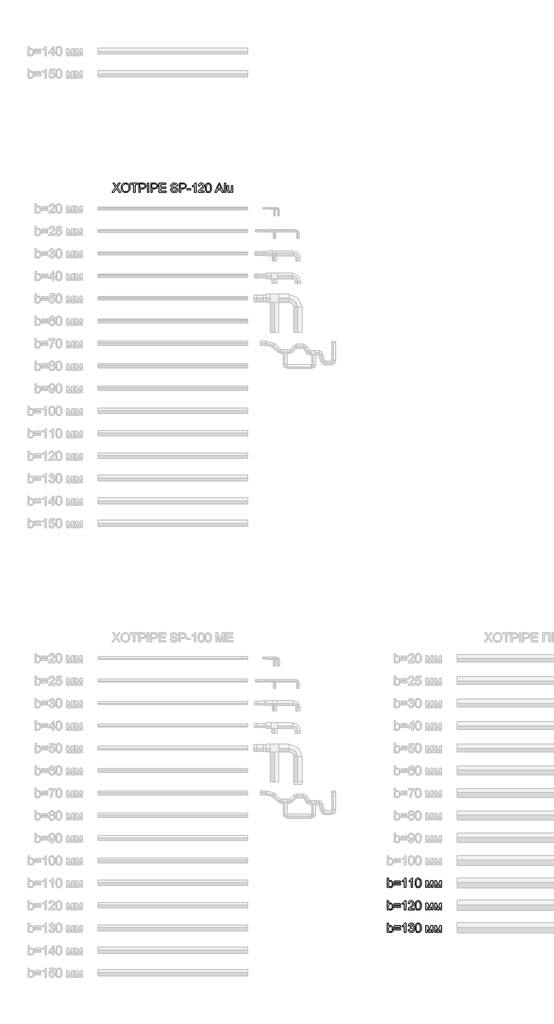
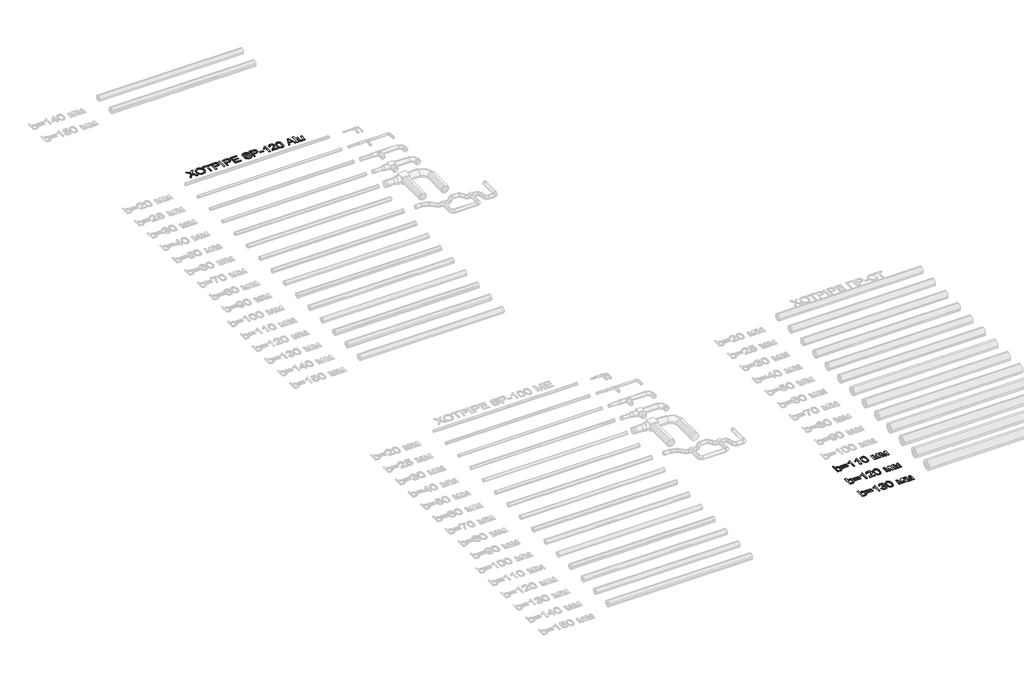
# One storey, part 63 of 86: 4 proxies.
"""IFC4 building model written with IfcOpenShell, lengths in millimetres."""

from ifc_helpers import new_model, si_unit, origin, origin_with_axes, place, context, project, spatial, polyline, outline, extrude, element, save

model = new_model("IFC4")

# Units and contexts
model_context = context("Model", 3, world=origin())
ifc_project = project(units=[si_unit("LENGTHUNIT", "METRE", prefix="MILLI")], contexts=[model_context])

# Site, building, storey
site = spatial("IfcSite", under=ifc_project)
building = spatial("IfcBuilding", under=site)
storey = spatial("IfcBuildingStorey", under=building, Name="Уровень 1", Elevation=0.0)

# Proxies
placement = place(None, origin())
element("IfcBuildingElementProxy", 1, Name="Текст модели 1", ObjectType="Текст модели 1", at=placement, inside=storey, context=model_context, shape_type="SweptSolid", body=[
    extrude(outline(polyline([(52246.1062284, 60543.2937088), (52478.4604965, 60871.7387541), (52283.7773447, 61146.0315697), (52374.1291627, 61146.0315697), (52483.7579973, 60991.6682845), (52509.9144071, 60952.5624284), (52520.6933496, 60931.4827901), (52563.9562722, 60992.6983541), (52672.4078844, 61146.0315697), (52764.0840776, 61146.0315697), (52569.4009257, 60870.8558373), (52801.7551939, 60543.2937088), (52711.4033759, 60543.2937088), (52556.5986323, 60761.6684611), (52524.3721695, 60806.9915229), (52488.9083452, 60757.2538772), (52337.7824216, 60543.2937088), (52246.1062284, 60543.2937088)])), origin_with_axes(), (0.0, 0.0, 1.0), 20.0),
    extrude(outline(polyline([(52848.8440893, 60836.7163882), (52853.8656785, 60907.4141106), (52868.9304462, 60970.000035), (52894.0383924, 61024.4741614), (52910.3585574, 61048.6693004), (52929.189517, 61070.8364899), (52972.2776957, 61107.8546156), (53021.196804, 61134.2961341), (53075.9468419, 61150.1610451), (53136.5278095, 61155.4493488), (53177.0776024, 61152.9661453), (53215.5856503, 61145.5165349), (53252.051953, 61133.1005176), (53286.4765107, 61115.7180933), (53317.8936331, 61093.8934939), (53345.33763, 61068.1509513), (53368.8085013, 61038.4904655), (53388.306247, 61004.9120363), (53403.6285321, 60968.1790191), (53414.5730215, 60929.0547689), (53421.1397151, 60887.5392858), (53423.3286129, 60843.6325697), (53421.0247519, 60799.1464394), (53414.113169, 60757.0699362), (53402.593864, 60717.4030601), (53386.466837, 60680.145811), (53366.1137656, 60646.2822733), (53341.9163274, 60616.7965314), (53313.8745223, 60591.6885853), (53281.9883504, 60570.9584348), (53247.5132089, 60554.7348388), (53211.7044952, 60543.146556), (53174.5622093, 60536.1935863), (53136.0863511, 60533.8759297), (53094.8283853, 60536.4373081), (53055.8144998, 60544.1214433), (53019.0446943, 60556.9283352), (52984.5189691, 60574.857984), (52953.1386349, 60597.2160122), (52925.8050027, 60623.3080427), (52902.5180724, 60653.1340755), (52883.277844, 60686.6941105), (52868.2130763, 60722.64078), (52857.452528, 60759.6267161), (52850.9961989, 60797.6519188), (52848.8440893, 60836.7163882)]), holes=[polyline([(52924.1863219, 60835.9806242), (52927.9525138, 60786.0314463), (52939.2510896, 60741.6924688), (52958.0820492, 60702.9636918), (52984.4453927, 60669.8451151), (53016.492513, 60643.3208233), (53052.3748031, 60624.3749005), (53092.092263, 60613.0073469), (53135.6448927, 60609.2181623), (53179.9424835, 60613.0441351), (53220.1289929, 60624.5220533), (53256.2044211, 60643.6519171), (53288.1687679, 60670.4337263), (53314.3389733, 60704.2512787), (53333.0319772, 60744.488372), (53344.2477795, 60791.145006), (53347.9863803, 60844.2211809), (53346.3860936, 60878.7009209), (53341.5852336, 60910.9181866), (53333.5838002, 60940.872978), (53322.3817935, 60968.5652952), (53308.1033735, 60993.6318547), (53290.8727006, 61015.7093729), (53270.6897746, 61034.7978499), (53247.5545956, 61050.8972857), (53222.1845335, 61063.6765866), (53195.2969582, 61072.8046586), (53166.8918697, 61078.2815018), (53136.9692679, 61080.1071162), (53094.9295529, 61076.5892446), (53055.9248644, 61066.0356298), (53019.9552023, 61048.446272), (52987.0205667, 61023.8211709), (52959.5305846, 60990.9739073), (52939.8948831, 60948.7180616), (52928.1134622, 60897.0536339), (52924.1863219, 60835.9806242)])]), origin_with_axes(), (0.0, 0.0, 1.0), 20.0),
    extrude(outline(polyline([(53677.608648, 60543.2937088), (53677.608648, 61070.6893371), (53479.8352874, 61070.6893371), (53479.8352874, 61146.0315697), (53950.7242412, 61146.0315697), (53950.7242412, 61070.6893371), (53752.9508806, 61070.6893371), (53752.9508806, 60543.2937088), (53677.608648, 60543.2937088)])), origin_with_axes(), (0.0, 0.0, 1.0), 20.0),
    extrude(outline(polyline([(54035.4842529, 60543.2937088), (54035.4842529, 61146.0315697), (54258.8622004, 61146.0315697), (54310.8807145, 61144.5968299), (54348.9197128, 61140.2926106), (54389.0740326, 61129.5688504), (54422.1282298, 61112.1128497), (54448.7444922, 61087.1336623), (54469.5850072, 61053.8403417), (54483.0494882, 61014.5689387), (54487.5376486, 60971.655504), (54484.5072206, 60934.6557723), (54475.4159368, 60900.6174907), (54460.2637972, 60869.5406592), (54439.0508016, 60841.4252777), (54409.9283432, 60818.1199533), (54371.0478148, 60801.473293), (54322.4092165, 60791.4852968), (54264.0125483, 60788.1559648), (54110.8264855, 60788.1559648), (54110.8264855, 60543.2937088), (54035.4842529, 60543.2937088)]), holes=[polyline([(54110.8264855, 60863.4981974), (54268.4271323, 60863.4981974), (54304.6635088, 60865.2272428), (54335.2345026, 60870.4143789), (54360.1401137, 60879.0596058), (54379.380342, 60891.1629234), (54393.7369369, 60906.4024351), (54403.9916475, 60924.456244), (54410.1444738, 60945.3243502), (54412.195416, 60969.0067536), (54407.3577677, 61002.8518972), (54392.844823, 61031.39954), (54370.4592036, 61052.8838485), (54342.0035313, 61065.5389892), (54312.9408537, 61069.4017501), (54266.6612987, 61070.6893371), (54110.8264855, 61070.6893371), (54110.8264855, 60863.4981974)])]), origin_with_axes(), (0.0, 0.0, 1.0), 20.0),
    extrude(outline(polyline([(54600.5509975, 60543.2937088), (54600.5509975, 61146.0315697), (54675.8932301, 61146.0315697), (54675.8932301, 60543.2937088), (54600.5509975, 60543.2937088)])), origin_with_axes(), (0.0, 0.0, 1.0), 20.0),
    extrude(outline(polyline([(54826.5776953, 60543.2937088), (54826.5776953, 61146.0315697), (55049.9556428, 61146.0315697), (55101.9741569, 61144.5968299), (55140.0131552, 61140.2926106), (55180.167475, 61129.5688504), (55213.2216723, 61112.1128497), (55239.8379346, 61087.1336623), (55260.6784496, 61053.8403417), (55274.1429307, 61014.5689387), (55278.631091, 60971.655504), (55275.6006631, 60934.6557723), (55266.5093793, 60900.6174907), (55251.3572396, 60869.5406592), (55230.144244, 60841.4252777), (55201.0217856, 60818.1199533), (55162.1412572, 60801.473293), (55113.502659, 60791.4852968), (55055.1059907, 60788.1559648), (54901.919928, 60788.1559648), (54901.919928, 60543.2937088), (54826.5776953, 60543.2937088)]), holes=[polyline([(54901.919928, 60863.4981974), (55059.5205747, 60863.4981974), (55095.7569512, 60865.2272428), (55126.327945, 60870.4143789), (55151.2335561, 60879.0596058), (55170.4737844, 60891.1629234), (55184.8303793, 60906.4024351), (55195.0850899, 60924.456244), (55201.2379163, 60945.3243502), (55203.2888584, 60969.0067536), (55198.4512102, 61002.8518972), (55183.9382655, 61031.39954), (55161.552646, 61052.8838485), (55133.0969737, 61065.5389892), (55104.0342961, 61069.4017501), (55057.7547411, 61070.6893371), (54901.919928, 61070.6893371), (54901.919928, 60863.4981974)])]), origin_with_axes(), (0.0, 0.0, 1.0), 20.0),
    extrude(outline(polyline([(55382.2266609, 60543.2937088), (55382.2266609, 61146.0315697), (55815.4444984, 61146.0315697), (55815.4444984, 61070.6893371), (55457.5688935, 61070.6893371), (55457.5688935, 60891.7515346), (55796.6089402, 60891.7515346), (55796.6089402, 60816.409302), (55457.5688935, 60816.409302), (55457.5688935, 60618.6359414), (55824.8622775, 60618.6359414), (55824.8622775, 60543.2937088), (55382.2266609, 60543.2937088)])), origin_with_axes(), (0.0, 0.0, 1.0), 20.0),
    extrude(outline(polyline([(56145.0667661, 60750.4848485), (56220.4089987, 60750.4848485), (56229.0542256, 60708.6750597), (56244.6892103, 60675.0690395), (56269.0797866, 60648.3975948), (56303.991788, 60627.3915329), (56346.6660994, 60613.761505), (56394.343606, 60609.2181623), (56436.3189416, 60612.657859), (56473.070353, 60622.976949), (56502.8504005, 60639.3109095), (56523.9116447, 60660.7952181), (56536.4380266, 60685.4617058), (56540.6134873, 60711.3422042), (56537.4864903, 60736.560515), (56528.1054994, 60758.3575232), (56509.0492121, 60776.953958), (56476.8963257, 60792.5705487), (56367.1939147, 60821.3389208), (56295.1810142, 60840.376814), (56249.1037943, 60858.4950023), (56211.5982249, 60883.8420717), (56185.0187507, 60914.5602183), (56169.1814308, 60949.9872545), (56163.9023242, 60989.4609925), (56165.5348006, 61011.8971957), (56170.4322296, 61033.5884379), (56178.5946114, 61054.534719), (56190.0219459, 61074.736039), (56204.5854743, 61093.3692621), (56222.1564381, 61109.6112522), (56242.7348372, 61123.4620093), (56266.3206717, 61134.9215334), (56319.3324672, 61150.3173949), (56378.0096454, 61155.4493488), (56441.5796542, 61150.0782716), (56497.2034118, 61133.9650403), (56521.5388058, 61121.9628902), (56542.8943556, 61107.4407484), (56561.2700613, 61090.398615), (56576.6659228, 61070.8364899), (56588.9623785, 61049.3245902), (56598.0398667, 61026.4331331), (56603.8983875, 61002.1621184), (56606.5379408, 60976.5115463), (56531.1957082, 60976.5115463), (56526.1557249, 61000.5526347), (56517.3633452, 61021.4667261), (56504.8185691, 61039.2538206), (56488.5213968, 61053.9139181), (56468.1683254, 61065.3734423), (56443.4558523, 61073.5588166), (56414.3839777, 61078.4700413), (56380.9527014, 61080.1071162), (56346.4545673, 61078.4884354), (56316.9780224, 61073.632393), (56292.5230668, 61065.5389892), (56273.0897004, 61054.2082237), (56258.2824501, 61040.5873928), (56247.7058427, 61025.6237927), (56241.3598783, 61009.3174232), (56239.2445568, 60991.6682845), (56240.7436759, 60976.4839552), (56245.2410333, 60962.7159715), (56252.736629, 60950.3643335), (56263.2304629, 60939.4290412), (56279.7483645, 60929.073163), (56305.7576215, 60918.6069203), (56386.2502021, 60897.343341), (56469.3179566, 60877.1466194), (56519.5706371, 60859.5250719), (56562.5208601, 60832.1914396), (56579.1261336, 60816.1241935), (56592.4848486, 60798.4566607), (56602.7533548, 60779.2808117), (56610.0880021, 60758.688617), (56615.9557199, 60713.2551906), (56614.2680612, 60689.6877503), (56609.2050853, 60666.8100887), (56600.766792, 60644.6222058), (56588.9531814, 60623.1241018), (56573.9711872, 60603.1481094), (56556.0277429, 60585.5265618), (56535.1228485, 60570.259459), (56511.2565041, 60557.346801), (56485.1230868, 60547.0782948), (56457.4169741, 60539.7436475), (56397.2866619, 60533.8759297), (56358.7464244, 60535.4578223), (56323.4711396, 60540.2035), (56291.4608075, 60548.1129629), (56262.7154281, 60559.186211), (56237.0602575, 60573.4416383), (56214.3205516, 60590.897639), (56194.4963106, 60611.554213), (56177.5875344, 60635.4113604), (56163.9667036, 60661.6965289), (56154.0062985, 60689.6371665), (56147.7063194, 60719.233273), (56145.0667661, 60750.4848485)])), origin_with_axes(), (0.0, 0.0, 1.0), 20.0),
    extrude(outline(polyline([(56728.9690688, 60543.2937088), (56728.9690688, 61146.0315697), (56952.3470163, 61146.0315697), (57004.3655304, 61144.5968299), (57042.4045287, 61140.2926106), (57082.5588485, 61129.5688504), (57115.6130457, 61112.1128497), (57142.2293081, 61087.1336623), (57163.0698231, 61053.8403417), (57176.5343041, 61014.5689387), (57181.0224645, 60971.655504), (57177.9920365, 60934.6557723), (57168.9007527, 60900.6174907), (57153.7486131, 60869.5406592), (57132.5356175, 60841.4252777), (57103.4131591, 60818.1199533), (57064.5326307, 60801.473293), (57015.8940324, 60791.4852968), (56957.4973642, 60788.1559648), (56804.3113014, 60788.1559648), (56804.3113014, 60543.2937088), (56728.9690688, 60543.2937088)]), holes=[polyline([(56804.3113014, 60863.4981974), (56961.9119481, 60863.4981974), (56998.1483247, 60865.2272428), (57028.7193185, 60870.4143789), (57053.6249295, 60879.0596058), (57072.8651579, 60891.1629234), (57087.2217528, 60906.4024351), (57097.4764634, 60924.456244), (57103.6292897, 60945.3243502), (57105.6802319, 60969.0067536), (57100.8425836, 61002.8518972), (57086.3296389, 61031.39954), (57063.9440195, 61052.8838485), (57035.4883472, 61065.5389892), (57006.4256696, 61069.4017501), (56960.1461146, 61070.6893371), (56804.3113014, 61070.6893371), (56804.3113014, 60863.4981974)])]), origin_with_axes(), (0.0, 0.0, 1.0), 20.0),
    extrude(outline(polyline([(57237.5291389, 60722.2315113), (57237.5291389, 60797.5737439), (57472.9736158, 60797.5737439), (57472.9736158, 60722.2315113), (57237.5291389, 60722.2315113)])), origin_with_axes(), (0.0, 0.0, 1.0), 20.0),
    extrude(outline(polyline([(57821.4314417, 60543.2937088), (57746.0892091, 60543.2937088), (57746.0892091, 61013.0054402), (57714.6352985, 60987.5664003), (57674.720102, 60962.1641485), (57632.8183427, 60939.9624701), (57595.4047438, 60924.1251502), (57595.4047438, 60995.3471045), (57654.5785628, 61027.5367791), (57705.8429188, 61065.8332947), (57746.254756, 61106.5578316), (57772.8710183, 61146.0315697), (57821.4314417, 61146.0315697), (57821.4314417, 60543.2937088)])), origin_with_axes(), (0.0, 0.0, 1.0), 20.0),
    extrude(outline(polyline([(58386.4981863, 60618.6359414), (58386.4981863, 60543.2937088), (57990.9514651, 60543.2937088), (57992.606934, 60569.8180007), (57999.0448689, 60595.2386465), (58017.6229097, 60635.8344247), (58044.8093891, 60675.2161923), (58084.1359744, 60716.4373698), (58139.1343327, 60762.5513779), (58220.4362536, 60834.7666136), (58269.2174062, 60888.0727147), (58283.4452424, 60909.8513288), (58293.6079825, 60931.3356373), (58299.7056266, 60952.5256402), (58301.7381746, 60973.4213376), (58299.8205897, 60993.0800317), (58294.067835, 61011.1476362), (58284.4799105, 61027.624151), (58271.0568162, 61042.5095763), (58254.5435131, 61054.8382216), (58235.6849623, 61063.6443969), (58214.4811638, 61068.928102), (58190.9321176, 61070.6893371), (58166.1230756, 61068.9694888), (58143.9351927, 61063.8099438), (58124.3684691, 61055.2107021), (58107.4229047, 61043.1717638), (58093.7147019, 61028.0977991), (58083.8600629, 61010.3934781), (58077.8589879, 60990.0588008), (58075.7114767, 60967.0937672), (58000.3692441, 60976.5115463), (58006.8485658, 61015.4058703), (58018.6345852, 61049.3889696), (58035.7273024, 61078.4608442), (58058.1267174, 61102.6214943), (58085.3177953, 61121.6134023), (58116.7855015, 61135.1790508), (58152.5298359, 61143.31844), (58192.5507984, 61146.0315697), (58232.9304459, 61143.0149373), (58268.8679183, 61133.9650403), (58300.3632156, 61118.8818785), (58327.4163378, 61097.7654519), (58349.1443682, 61072.1792592), (58364.6643899, 61043.6867986), (58373.9764029, 61012.2880704), (58377.0804072, 60977.9830743), (58373.732681, 60941.9490329), (58363.6895026, 60906.5403908), (58345.8656199, 60870.5247435), (58319.1757811, 60832.6696862), (58276.6302284, 60787.4753831), (58211.2392038, 60729.4419984), (58124.5662057, 60656.9692453), (58090.5739093, 60618.6359414), (58386.4981863, 60618.6359414)])), origin_with_axes(), (0.0, 0.0, 1.0), 20.0),
    extrude(outline(polyline([(58461.8404189, 60839.8065969), (58467.3770429, 60936.2836501), (58474.2978229, 60977.1967265), (58483.986915, 61013.2261694), (58496.4029323, 61044.6662845), (58511.5044882, 61071.8113772), (58529.2915827, 61094.6614476), (58549.7642157, 61113.2164957), (58572.9913652, 61127.5730906), (58599.042009, 61137.8278012), (58627.9161471, 61143.9806276), (58659.6137795, 61146.0315697), (58706.0404873, 61141.1755274), (58747.6111527, 61126.6074004), (58782.3760013, 61102.8974058), (58808.3852583, 61070.6157607), (58828.0301569, 61030.0383766), (58843.7019299, 60981.4411651), (58853.9658375, 60919.7289604), (58857.3871401, 60839.8065969), (58851.9056984, 60743.8813667), (58845.0538962, 60703.106246), (58835.4613732, 60667.1227884), (58823.1419249, 60635.6688778), (58808.1093468, 60608.4823983), (58790.3636391, 60585.56335), (58769.9048016, 60566.9117329), (58746.650061, 60552.458569), (58720.5166438, 60542.1348805), (58691.5045499, 60535.9406674), (58659.6137795, 60533.8759297), (58618.1166904, 60537.4627792), (58581.3284909, 60548.2233275), (58549.2491809, 60566.1575748), (58521.8787605, 60591.265521), (58495.611986, 60636.6529621), (58476.8500043, 60693.2056218), (58465.5928152, 60760.9235001), (58461.8404189, 60839.8065969)]), holes=[polyline([(58537.1826515, 60839.9537497), (58539.3899435, 60774.456959), (58546.0118194, 60721.440565), (58557.0482792, 60680.9045676), (58572.499323, 60652.848967), (58591.1877284, 60633.7604899), (58611.9362729, 60620.1258635), (58634.7449566, 60611.9450876), (58659.6137795, 60609.2181623), (58684.4826024, 60611.9542847), (58707.2912861, 60620.1626517), (58728.0398306, 60633.8432634), (58746.7282359, 60652.9961198), (58762.1792797, 60681.0977057), (58773.2157396, 60721.624506), (58779.8376155, 60774.5765206), (58782.0449075, 60839.9537497), (58779.9111919, 60903.7168965), (58773.5100452, 60955.79979), (58762.8414673, 60996.2024301), (58747.9054583, 61024.9248169), (58729.5297527, 61044.9467945), (58708.5420848, 61059.248207), (58684.9424549, 61067.8290546), (58658.7308627, 61070.6893371), (58633.9907985, 61068.1693454), (58611.5683909, 61060.6093704), (58591.4636399, 61048.0094121), (58573.6765454, 61030.3694704), (58557.7104668, 60999.0995008), (58546.306125, 60956.9402242), (58539.4635199, 60903.8916405), (58537.1826515, 60839.9537497)])]), origin_with_axes(), (0.0, 0.0, 1.0), 20.0),
    extrude(outline(polyline([(59116.8175231, 60543.2937088), (59357.4123479, 61146.0315697), (59421.5709679, 61146.0315697), (59662.1657927, 60543.2937088), (59582.556129, 60543.2937088), (59513.5414667, 60731.6492903), (59265.2946963, 60731.6492903), (59196.4271868, 60543.2937088), (59116.8175231, 60543.2937088)]), holes=[polyline([(59292.9594224, 60806.9915229), (59486.0238935, 60806.9915229), (59431.724511, 60955.1743906), (59389.4916579, 61070.6893371), (59351.9676944, 60968.1238368), (59292.9594224, 60806.9915229)])]), origin_with_axes(), (0.0, 0.0, 1.0), 20.0),
    extrude(outline(polyline([(59733.2405942, 60543.2937088), (59733.2405942, 61146.0315697), (59808.5828268, 61146.0315697), (59808.5828268, 60543.2937088), (59733.2405942, 60543.2937088)])), origin_with_axes(), (0.0, 0.0, 1.0), 20.0),
    extrude(outline(polyline([(60204.129548, 60543.2937088), (60204.129548, 60619.3717054), (60176.8694922, 60581.9673035), (60145.121276, 60555.2498736), (60108.8848995, 60539.2194157), (60068.1603626, 60533.8759297), (60031.4641336, 60537.6283261), (59997.3062903, 60548.8855151), (59968.6482829, 60565.8080869), (59948.4515614, 60586.5566314), (59934.8583217, 60611.7565481), (59926.0107597, 60642.0332363), (59921.5961757, 60712.0779682), (59921.5961757, 60985.9293254), (59996.9384084, 60985.9293254), (59996.9384084, 60747.5417925), (59998.0788425, 60699.8642859), (60001.5001451, 60670.7280319), (60012.4814226, 60645.105051), (60031.2985867, 60625.6256993), (60056.7008385, 60613.3200466), (60087.4373792, 60609.2181623), (60119.9397534, 60613.4120171), (60150.3452003, 60625.9935813), (60175.4163583, 60645.8040268), (60191.9158658, 60671.6845251), (60201.0761275, 60707.1299554), (60204.129548, 60755.6351964), (60204.129548, 60985.9293254), (60279.4717806, 60985.9293254), (60279.4717806, 60543.2937088), (60204.129548, 60543.2937088)])), origin_with_axes(), (0.0, 0.0, 1.0), 20.0),
])
element("IfcBuildingElementProxy", 2, Name="Текст модели 1", ObjectType="Текст модели 1", at=placement, inside=storey, context=model_context, shape_type="SweptSolid", body=[
    extrude(outline(polyline([(70698.159624, 14169.2937088), (70622.8173914, 14169.2937088), (70622.8173914, 14772.0315697), (70698.159624, 14772.0315697), (70698.159624, 14548.5064694), (70722.9364764, 14580.3742473), (70750.9139022, 14603.1369457), (70782.0919012, 14616.7945648), (70816.4704737, 14621.3471045), (70855.2820242, 14617.2452202), (70891.9598591, 14604.9395675), (70924.4070511, 14585.2026984), (70950.5266727, 14558.8071653), (70970.9993058, 14526.0104854), (70986.5055319, 14487.0701762), (70996.2727988, 14443.6049185), (70999.5285545, 14397.233393), (70996.1578357, 14343.7249568), (70986.0456794, 14296.6544555), (70969.1920855, 14256.0218892), (70945.597054, 14221.8272577), (70917.2747389, 14194.7235517), (70886.2392941, 14175.3637617), (70852.4907195, 14163.7478877), (70816.0290153, 14159.8759297), (70780.5192057, 14164.8699278), (70749.037704, 14179.8519221), (70721.5845101, 14204.8219125), (70698.159624, 14239.7798991), (70698.159624, 14169.2937088)]), holes=[polyline([(70698.159624, 14393.7017259), (70703.309972, 14330.8674811), (70709.7479069, 14307.065516), (70718.7610158, 14288.3403224), (70737.0171598, 14265.0993774), (70758.2347539, 14248.4987024), (70782.413798, 14238.5382973), (70809.5542922, 14235.2181623), (70832.0870644, 14237.6645776), (70853.037944, 14245.0038234), (70872.4069311, 14257.2358997), (70890.1940255, 14274.3608066), (70905.0656552, 14296.3325588), (70915.6882478, 14323.105171), (70922.0618034, 14354.6786432), (70924.1863219, 14391.0529755), (70922.1491753, 14428.1170865), (70916.0377357, 14459.9940614), (70905.8520029, 14486.6839001), (70891.5919771, 14508.1866028), (70874.4440776, 14524.7320955), (70855.5947239, 14536.5503046), (70835.0439159, 14543.64123), (70812.7916537, 14546.0048719), (70790.2588815, 14543.5584566), (70769.3080019, 14536.2192108), (70749.9390149, 14523.9871344), (70732.1519204, 14506.8622276), (70717.2802907, 14485.1112046), (70706.6576981, 14459.00078), (70700.2841426, 14428.5309538), (70698.159624, 14393.7017259)])]), origin_with_axes(), (0.0, 0.0, 1.0), 20.0),
    extrude(outline(polyline([(71470.4175083, 14517.7515346), (71074.8707871, 14517.7515346), (71074.8707871, 14593.0937672), (71470.4175083, 14593.0937672), (71470.4175083, 14517.7515346)])), origin_with_axes(), (0.0, 0.0, 1.0), 20.0),
    extrude(outline(polyline([(71470.4175083, 14338.8137322), (71074.8707871, 14338.8137322), (71074.8707871, 14414.1559648), (71470.4175083, 14414.1559648), (71470.4175083, 14338.8137322)])), origin_with_axes(), (0.0, 0.0, 1.0), 20.0),
    extrude(outline(polyline([(71837.7108923, 14169.2937088), (71762.3686597, 14169.2937088), (71762.3686597, 14639.0054402), (71730.9147491, 14613.5664003), (71690.9995526, 14588.1641485), (71649.0977934, 14565.9624701), (71611.6841945, 14550.1251502), (71611.6841945, 14621.3471045), (71670.8580134, 14653.5367791), (71722.1223694, 14691.8332947), (71762.5342066, 14732.5578316), (71789.1504689, 14772.0315697), (71837.7108923, 14772.0315697), (71837.7108923, 14169.2937088)])), origin_with_axes(), (0.0, 0.0, 1.0), 20.0),
    extrude(outline(polyline([(72299.1820671, 14169.2937088), (72223.8398344, 14169.2937088), (72223.8398344, 14639.0054402), (72192.3859239, 14613.5664003), (72152.4707274, 14588.1641485), (72110.5689681, 14565.9624701), (72073.1553692, 14550.1251502), (72073.1553692, 14621.3471045), (72132.3291881, 14653.5367791), (72183.5935442, 14691.8332947), (72224.0053813, 14732.5578316), (72250.6216437, 14772.0315697), (72299.1820671, 14772.0315697), (72299.1820671, 14169.2937088)])), origin_with_axes(), (0.0, 0.0, 1.0), 20.0),
    extrude(outline(polyline([(72478.1198695, 14465.8065969), (72483.6564935, 14562.2836501), (72490.5772736, 14603.1967265), (72500.2663656, 14639.2261694), (72512.682383, 14670.6662845), (72527.7839389, 14697.8113772), (72545.5710333, 14720.6614476), (72566.0436664, 14739.2164957), (72589.2708158, 14753.5730906), (72615.3214596, 14763.8278012), (72644.1955977, 14769.9806276), (72675.8932301, 14772.0315697), (72722.3199379, 14767.1755274), (72763.8906034, 14752.6074004), (72798.6554519, 14728.8974058), (72824.664709, 14696.6157607), (72844.3096075, 14656.0383766), (72859.9813805, 14607.4411651), (72870.2452882, 14545.7289604), (72873.6665907, 14465.8065969), (72868.185149, 14369.8813667), (72861.3333468, 14329.106246), (72851.7408238, 14293.1227884), (72839.4213755, 14261.6688778), (72824.3887975, 14234.4823983), (72806.6430897, 14211.56335), (72786.1842523, 14192.9117329), (72762.9295116, 14178.458569), (72736.7960944, 14168.1348805), (72707.7840006, 14161.9406674), (72675.8932301, 14159.8759297), (72634.3961411, 14163.4627792), (72597.6079415, 14174.2233275), (72565.5286316, 14192.1575748), (72538.1582111, 14217.265521), (72511.8914367, 14262.6529621), (72493.1294549, 14319.2056218), (72481.8722659, 14386.9235001), (72478.1198695, 14465.8065969)]), holes=[polyline([(72553.4621021, 14465.9537497), (72555.6693941, 14400.456959), (72562.29127, 14347.440565), (72573.3277299, 14306.9045676), (72588.7787737, 14278.848967), (72607.467179, 14259.7604899), (72628.2157235, 14246.1258635), (72651.0244072, 14237.9450876), (72675.8932301, 14235.2181623), (72700.762053, 14237.9542847), (72723.5707367, 14246.1626517), (72744.3192812, 14259.8432634), (72763.0076866, 14278.9961198), (72778.4587304, 14307.0977057), (72789.4951902, 14347.624506), (72796.1170661, 14400.5765206), (72798.3243581, 14465.9537497), (72796.1906425, 14529.7168965), (72789.7894958, 14581.79979), (72779.120918, 14622.2024301), (72764.184909, 14650.9248169), (72745.8092033, 14670.9467945), (72724.8215355, 14685.248207), (72701.2219055, 14693.8290546), (72675.0103133, 14696.6893371), (72650.2702492, 14694.1693454), (72627.8478415, 14686.6093704), (72607.7430905, 14674.0094121), (72589.955996, 14656.3694704), (72573.9899175, 14625.0995008), (72562.5855756, 14582.9402242), (72555.7429705, 14529.8916405), (72553.4621021, 14465.9537497)])]), origin_with_axes(), (0.0, 0.0, 1.0), 20.0),
    extrude(outline(polyline([(73193.8710793, 14611.9293254), (73323.5126944, 14611.9293254), (73423.4294443, 14257.5853876), (73531.1452925, 14611.9293254), (73655.3422541, 14611.9293254), (73655.3422541, 14169.2937088), (73580.0000215, 14169.2937088), (73580.0000215, 14525.6977857), (73471.6955621, 14169.2937088), (73372.8088818, 14169.2937088), (73269.2133119, 14542.7675103), (73269.2133119, 14169.2937088), (73193.8710793, 14169.2937088), (73193.8710793, 14611.9293254)])), origin_with_axes(), (0.0, 0.0, 1.0), 20.0),
    extrude(outline(polyline([(73768.355603, 14611.9293254), (73897.9972181, 14611.9293254), (73997.913968, 14257.5853876), (74105.6298162, 14611.9293254), (74229.8267777, 14611.9293254), (74229.8267777, 14169.2937088), (74154.4845451, 14169.2937088), (74154.4845451, 14525.6977857), (74046.1800857, 14169.2937088), (73947.2934054, 14169.2937088), (73843.6978356, 14542.7675103), (73843.6978356, 14169.2937088), (73768.355603, 14169.2937088), (73768.355603, 14611.9293254)])), origin_with_axes(), (0.0, 0.0, 1.0), 20.0),
])
element("IfcBuildingElementProxy", 3, Name="Текст модели 1", ObjectType="Текст модели 1", at=placement, inside=storey, context=model_context, shape_type="SweptSolid", body=[
    extrude(outline(polyline([(70698.159624, 12669.2937088), (70622.8173914, 12669.2937088), (70622.8173914, 13272.0315697), (70698.159624, 13272.0315697), (70698.159624, 13048.5064694), (70722.9364764, 13080.3742473), (70750.9139022, 13103.1369457), (70782.0919012, 13116.7945648), (70816.4704737, 13121.3471045), (70855.2820242, 13117.2452202), (70891.9598591, 13104.9395675), (70924.4070511, 13085.2026984), (70950.5266727, 13058.8071653), (70970.9993058, 13026.0104854), (70986.5055319, 12987.0701762), (70996.2727988, 12943.6049185), (70999.5285545, 12897.233393), (70996.1578357, 12843.7249568), (70986.0456794, 12796.6544555), (70969.1920855, 12756.0218892), (70945.597054, 12721.8272577), (70917.2747389, 12694.7235517), (70886.2392941, 12675.3637617), (70852.4907195, 12663.7478877), (70816.0290153, 12659.8759297), (70780.5192057, 12664.8699278), (70749.037704, 12679.8519221), (70721.5845101, 12704.8219125), (70698.159624, 12739.7798991), (70698.159624, 12669.2937088)]), holes=[polyline([(70698.159624, 12893.7017259), (70703.309972, 12830.8674811), (70709.7479069, 12807.065516), (70718.7610158, 12788.3403224), (70737.0171598, 12765.0993774), (70758.2347539, 12748.4987024), (70782.413798, 12738.5382973), (70809.5542922, 12735.2181623), (70832.0870644, 12737.6645776), (70853.037944, 12745.0038234), (70872.4069311, 12757.2358997), (70890.1940255, 12774.3608066), (70905.0656552, 12796.3325588), (70915.6882478, 12823.105171), (70922.0618034, 12854.6786432), (70924.1863219, 12891.0529755), (70922.1491753, 12928.1170865), (70916.0377357, 12959.9940614), (70905.8520029, 12986.6839001), (70891.5919771, 13008.1866028), (70874.4440776, 13024.7320955), (70855.5947239, 13036.5503046), (70835.0439159, 13043.64123), (70812.7916537, 13046.0048719), (70790.2588815, 13043.5584566), (70769.3080019, 13036.2192108), (70749.9390149, 13023.9871344), (70732.1519204, 13006.8622276), (70717.2802907, 12985.1112046), (70706.6576981, 12959.00078), (70700.2841426, 12928.5309538), (70698.159624, 12893.7017259)])]), origin_with_axes(), (0.0, 0.0, 1.0), 20.0),
    extrude(outline(polyline([(71470.4175083, 13017.7515346), (71074.8707871, 13017.7515346), (71074.8707871, 13093.0937672), (71470.4175083, 13093.0937672), (71470.4175083, 13017.7515346)])), origin_with_axes(), (0.0, 0.0, 1.0), 20.0),
    extrude(outline(polyline([(71470.4175083, 12838.8137322), (71074.8707871, 12838.8137322), (71074.8707871, 12914.1559648), (71470.4175083, 12914.1559648), (71470.4175083, 12838.8137322)])), origin_with_axes(), (0.0, 0.0, 1.0), 20.0),
    extrude(outline(polyline([(71837.7108923, 12669.2937088), (71762.3686597, 12669.2937088), (71762.3686597, 13139.0054402), (71730.9147491, 13113.5664003), (71690.9995526, 13088.1641485), (71649.0977934, 13065.9624701), (71611.6841945, 13050.1251502), (71611.6841945, 13121.3471045), (71670.8580134, 13153.5367791), (71722.1223694, 13191.8332947), (71762.5342066, 13232.5578316), (71789.1504689, 13272.0315697), (71837.7108923, 13272.0315697), (71837.7108923, 12669.2937088)])), origin_with_axes(), (0.0, 0.0, 1.0), 20.0),
    extrude(outline(polyline([(72402.7776369, 12744.6359414), (72402.7776369, 12669.2937088), (72007.2309157, 12669.2937088), (72008.8863847, 12695.8180007), (72015.3243196, 12721.2386465), (72033.9023603, 12761.8344247), (72061.0888398, 12801.2161923), (72100.4154251, 12842.4373698), (72155.4137833, 12888.5513779), (72236.7157043, 12960.7666136), (72285.4968568, 13014.0727147), (72299.724693, 13035.8513288), (72309.8874331, 13057.3356373), (72315.9850772, 13078.5256402), (72318.0176252, 13099.4213376), (72316.1000403, 13119.0800317), (72310.3472856, 13137.1476362), (72300.7593611, 13153.624151), (72287.3362668, 13168.5095763), (72270.8229638, 13180.8382216), (72251.964413, 13189.6443969), (72230.7606145, 13194.928102), (72207.2115683, 13196.6893371), (72182.4025262, 13194.9694888), (72160.2146434, 13189.8099438), (72140.6479198, 13181.2107021), (72123.7023554, 13169.1717638), (72109.9941525, 13154.0977991), (72100.1395136, 13136.3934781), (72094.1384385, 13116.0588008), (72091.9909274, 13093.0937672), (72016.6486948, 13102.5115463), (72023.1280164, 13141.4058703), (72034.9140358, 13175.3889696), (72052.006753, 13204.4608442), (72074.406168, 13228.6214943), (72101.597246, 13247.6134023), (72133.0649521, 13261.1790508), (72168.8092865, 13269.31844), (72208.830249, 13272.0315697), (72249.2098965, 13269.0149373), (72285.1473689, 13259.9650403), (72316.6426662, 13244.8818785), (72343.6957885, 13223.7654519), (72365.4238188, 13198.1792592), (72380.9438405, 13169.6867986), (72390.2558535, 13138.2880704), (72393.3598578, 13103.9830743), (72390.0121317, 13067.9490329), (72379.9689532, 13032.5403908), (72362.1450705, 12996.5247435), (72335.4552318, 12958.6696862), (72292.909679, 12913.4753831), (72227.5186544, 12855.4419984), (72140.8456563, 12782.9692453), (72106.85336, 12744.6359414), (72402.7776369, 12744.6359414)])), origin_with_axes(), (0.0, 0.0, 1.0), 20.0),
    extrude(outline(polyline([(72478.1198695, 12965.8065969), (72483.6564935, 13062.2836501), (72490.5772736, 13103.1967265), (72500.2663656, 13139.2261694), (72512.682383, 13170.6662845), (72527.7839389, 13197.8113772), (72545.5710333, 13220.6614476), (72566.0436664, 13239.2164957), (72589.2708158, 13253.5730906), (72615.3214596, 13263.8278012), (72644.1955977, 13269.9806276), (72675.8932301, 13272.0315697), (72722.3199379, 13267.1755274), (72763.8906034, 13252.6074004), (72798.6554519, 13228.8974058), (72824.664709, 13196.6157607), (72844.3096075, 13156.0383766), (72859.9813805, 13107.4411651), (72870.2452882, 13045.7289604), (72873.6665907, 12965.8065969), (72868.185149, 12869.8813667), (72861.3333468, 12829.106246), (72851.7408238, 12793.1227884), (72839.4213755, 12761.6688778), (72824.3887975, 12734.4823983), (72806.6430897, 12711.56335), (72786.1842523, 12692.9117329), (72762.9295116, 12678.458569), (72736.7960944, 12668.1348805), (72707.7840006, 12661.9406674), (72675.8932301, 12659.8759297), (72634.3961411, 12663.4627792), (72597.6079415, 12674.2233275), (72565.5286316, 12692.1575748), (72538.1582111, 12717.265521), (72511.8914367, 12762.6529621), (72493.1294549, 12819.2056218), (72481.8722659, 12886.9235001), (72478.1198695, 12965.8065969)]), holes=[polyline([(72553.4621021, 12965.9537497), (72555.6693941, 12900.456959), (72562.29127, 12847.440565), (72573.3277299, 12806.9045676), (72588.7787737, 12778.848967), (72607.467179, 12759.7604899), (72628.2157235, 12746.1258635), (72651.0244072, 12737.9450876), (72675.8932301, 12735.2181623), (72700.762053, 12737.9542847), (72723.5707367, 12746.1626517), (72744.3192812, 12759.8432634), (72763.0076866, 12778.9961198), (72778.4587304, 12807.0977057), (72789.4951902, 12847.624506), (72796.1170661, 12900.5765206), (72798.3243581, 12965.9537497), (72796.1906425, 13029.7168965), (72789.7894958, 13081.79979), (72779.120918, 13122.2024301), (72764.184909, 13150.9248169), (72745.8092033, 13170.9467945), (72724.8215355, 13185.248207), (72701.2219055, 13193.8290546), (72675.0103133, 13196.6893371), (72650.2702492, 13194.1693454), (72627.8478415, 13186.6093704), (72607.7430905, 13174.0094121), (72589.955996, 13156.3694704), (72573.9899175, 13125.0995008), (72562.5855756, 13082.9402242), (72555.7429705, 13029.8916405), (72553.4621021, 12965.9537497)])]), origin_with_axes(), (0.0, 0.0, 1.0), 20.0),
    extrude(outline(polyline([(73193.8710793, 13111.9293254), (73323.5126944, 13111.9293254), (73423.4294443, 12757.5853876), (73531.1452925, 13111.9293254), (73655.3422541, 13111.9293254), (73655.3422541, 12669.2937088), (73580.0000215, 12669.2937088), (73580.0000215, 13025.6977857), (73471.6955621, 12669.2937088), (73372.8088818, 12669.2937088), (73269.2133119, 13042.7675103), (73269.2133119, 12669.2937088), (73193.8710793, 12669.2937088), (73193.8710793, 13111.9293254)])), origin_with_axes(), (0.0, 0.0, 1.0), 20.0),
    extrude(outline(polyline([(73768.355603, 13111.9293254), (73897.9972181, 13111.9293254), (73997.913968, 12757.5853876), (74105.6298162, 13111.9293254), (74229.8267777, 13111.9293254), (74229.8267777, 12669.2937088), (74154.4845451, 12669.2937088), (74154.4845451, 13025.6977857), (74046.1800857, 12669.2937088), (73947.2934054, 12669.2937088), (73843.6978356, 13042.7675103), (73843.6978356, 12669.2937088), (73768.355603, 12669.2937088), (73768.355603, 13111.9293254)])), origin_with_axes(), (0.0, 0.0, 1.0), 20.0),
])
element("IfcBuildingElementProxy", 4, Name="Текст модели 1", ObjectType="Текст модели 1", at=placement, inside=storey, context=model_context, shape_type="SweptSolid", body=[
    extrude(outline(polyline([(70698.159624, 11169.2937088), (70622.8173914, 11169.2937088), (70622.8173914, 11772.0315697), (70698.159624, 11772.0315697), (70698.159624, 11548.5064694), (70722.9364764, 11580.3742473), (70750.9139022, 11603.1369457), (70782.0919012, 11616.7945648), (70816.4704737, 11621.3471045), (70855.2820242, 11617.2452202), (70891.9598591, 11604.9395675), (70924.4070511, 11585.2026984), (70950.5266727, 11558.8071653), (70970.9993058, 11526.0104854), (70986.5055319, 11487.0701762), (70996.2727988, 11443.6049185), (70999.5285545, 11397.233393), (70996.1578357, 11343.7249568), (70986.0456794, 11296.6544555), (70969.1920855, 11256.0218892), (70945.597054, 11221.8272577), (70917.2747389, 11194.7235517), (70886.2392941, 11175.3637617), (70852.4907195, 11163.7478877), (70816.0290153, 11159.8759297), (70780.5192057, 11164.8699278), (70749.037704, 11179.8519221), (70721.5845101, 11204.8219125), (70698.159624, 11239.7798991), (70698.159624, 11169.2937088)]), holes=[polyline([(70698.159624, 11393.7017259), (70703.309972, 11330.8674811), (70709.7479069, 11307.065516), (70718.7610158, 11288.3403224), (70737.0171598, 11265.0993774), (70758.2347539, 11248.4987024), (70782.413798, 11238.5382973), (70809.5542922, 11235.2181623), (70832.0870644, 11237.6645776), (70853.037944, 11245.0038234), (70872.4069311, 11257.2358997), (70890.1940255, 11274.3608066), (70905.0656552, 11296.3325588), (70915.6882478, 11323.105171), (70922.0618034, 11354.6786432), (70924.1863219, 11391.0529755), (70922.1491753, 11428.1170865), (70916.0377357, 11459.9940614), (70905.8520029, 11486.6839001), (70891.5919771, 11508.1866028), (70874.4440776, 11524.7320955), (70855.5947239, 11536.5503046), (70835.0439159, 11543.64123), (70812.7916537, 11546.0048719), (70790.2588815, 11543.5584566), (70769.3080019, 11536.2192108), (70749.9390149, 11523.9871344), (70732.1519204, 11506.8622276), (70717.2802907, 11485.1112046), (70706.6576981, 11459.00078), (70700.2841426, 11428.5309538), (70698.159624, 11393.7017259)])]), origin_with_axes(), (0.0, 0.0, 1.0), 20.0),
    extrude(outline(polyline([(71470.4175083, 11517.7515346), (71074.8707871, 11517.7515346), (71074.8707871, 11593.0937672), (71470.4175083, 11593.0937672), (71470.4175083, 11517.7515346)])), origin_with_axes(), (0.0, 0.0, 1.0), 20.0),
    extrude(outline(polyline([(71470.4175083, 11338.8137322), (71074.8707871, 11338.8137322), (71074.8707871, 11414.1559648), (71470.4175083, 11414.1559648), (71470.4175083, 11338.8137322)])), origin_with_axes(), (0.0, 0.0, 1.0), 20.0),
    extrude(outline(polyline([(71837.7108923, 11169.2937088), (71762.3686597, 11169.2937088), (71762.3686597, 11639.0054402), (71730.9147491, 11613.5664003), (71690.9995526, 11588.1641485), (71649.0977934, 11565.9624701), (71611.6841945, 11550.1251502), (71611.6841945, 11621.3471045), (71670.8580134, 11653.5367791), (71722.1223694, 11691.8332947), (71762.5342066, 11732.5578316), (71789.1504689, 11772.0315697), (71837.7108923, 11772.0315697), (71837.7108923, 11169.2937088)])), origin_with_axes(), (0.0, 0.0, 1.0), 20.0),
    extrude(outline(polyline([(72016.6486948, 11329.3959531), (72091.9909274, 11338.8137322), (72108.8583168, 11291.4673194), (72120.230469, 11273.5606633), (72133.5615928, 11259.498374), (72149.1551909, 11248.8757814), (72167.3147659, 11241.2882153), (72188.0403178, 11236.7356756), (72211.3318466, 11235.2181623), (72238.6286906, 11237.3058927), (72262.9824787, 11243.5690836), (72284.3932108, 11254.0077352), (72302.860887, 11268.6218475), (72317.7325167, 11286.3169715), (72328.3551093, 11305.9986582), (72334.7286648, 11327.6669077), (72336.8531834, 11351.32172), (72334.7470589, 11373.8498937), (72328.4286857, 11394.3455193), (72317.8980636, 11412.808597), (72303.1551926, 11429.2391266), (72285.165763, 11442.7266002), (72264.8954651, 11452.36051), (72242.3442988, 11458.1408558), (72217.5122641, 11460.0676378), (72193.710299, 11458.0074986), (72164.6844096, 11451.8270811), (72173.0721191, 11527.1693137), (72185.1386485, 11526.2863969), (72230.2777694, 11531.6942622), (72270.6344242, 11547.9178582), (72287.2442963, 11560.1867228), (72299.1084907, 11575.3618551), (72306.2270073, 11593.4432551), (72308.5998461, 11614.430923), (72306.8799978, 11631.4684579), (72301.7204528, 11646.9700854), (72293.1212112, 11660.9358057), (72281.0822729, 11673.3656186), (72266.3302049, 11683.5697454), (72249.5915741, 11690.8584075), (72210.1546242, 11696.6893371), (72189.4980502, 11695.2178091), (72170.6440979, 11690.8032252), (72153.5927675, 11683.4455853), (72138.3440588, 11673.1448894), (72125.2750509, 11659.9011376), (72114.7628229, 11643.7143298), (72106.8073747, 11624.584466), (72101.4087064, 11602.5115463), (72026.0664738, 11611.9293254), (72034.9968093, 11647.8989875), (72048.2497581, 11679.5828243), (72065.8253205, 11706.9808359), (72087.7234962, 11730.0930222), (72113.2545067, 11748.4411368), (72141.7285731, 11761.5469328), (72173.1456955, 11769.4104105), (72207.5058739, 11772.0315697), (72254.8706807, 11766.8628277), (72298.3727267, 11751.3566016), (72335.0505616, 11726.8924489), (72361.9427354, 11694.8499271), (72378.4422429, 11657.9329689), (72383.9420787, 11618.8455069), (72378.7181544, 11582.4251894), (72363.0463814, 11549.3893862), (72337.147489, 11521.2464136), (72301.2422062, 11499.5045877), (72326.3501524, 11491.6503071), (72348.404678, 11480.4483003), (72367.4057831, 11465.8985674), (72383.3534676, 11448.0011083), (72395.97182, 11427.1973815), (72404.9849289, 11403.9288453), (72410.3927942, 11378.1954998), (72412.195416, 11349.9973448), (72408.5901724, 11311.7744055), (72397.7744418, 11276.5680986), (72379.748224, 11244.378424), (72354.5115191, 11215.2053818), (72323.7657814, 11190.9987465), (72289.212465, 11173.7082927), (72250.8515699, 11163.3340205), (72208.6830962, 11159.8759297), (72170.5705215, 11162.8281827), (72135.8424612, 11171.6849418), (72104.4989152, 11186.4462068), (72076.5398836, 11207.1119779), (72053.0966034, 11232.4682444), (72035.3003119, 11261.3009958), (72023.151009, 11293.610232), (72016.6486948, 11329.3959531)])), origin_with_axes(), (0.0, 0.0, 1.0), 20.0),
    extrude(outline(polyline([(72478.1198695, 11465.8065969), (72483.6564935, 11562.2836501), (72490.5772736, 11603.1967265), (72500.2663656, 11639.2261694), (72512.682383, 11670.6662845), (72527.7839389, 11697.8113772), (72545.5710333, 11720.6614476), (72566.0436664, 11739.2164957), (72589.2708158, 11753.5730906), (72615.3214596, 11763.8278012), (72644.1955977, 11769.9806276), (72675.8932301, 11772.0315697), (72722.3199379, 11767.1755274), (72763.8906034, 11752.6074004), (72798.6554519, 11728.8974058), (72824.664709, 11696.6157607), (72844.3096075, 11656.0383766), (72859.9813805, 11607.4411651), (72870.2452882, 11545.7289604), (72873.6665907, 11465.8065969), (72868.185149, 11369.8813667), (72861.3333468, 11329.106246), (72851.7408238, 11293.1227884), (72839.4213755, 11261.6688778), (72824.3887975, 11234.4823983), (72806.6430897, 11211.56335), (72786.1842523, 11192.9117329), (72762.9295116, 11178.458569), (72736.7960944, 11168.1348805), (72707.7840006, 11161.9406674), (72675.8932301, 11159.8759297), (72634.3961411, 11163.4627792), (72597.6079415, 11174.2233275), (72565.5286316, 11192.1575748), (72538.1582111, 11217.265521), (72511.8914367, 11262.6529621), (72493.1294549, 11319.2056218), (72481.8722659, 11386.9235001), (72478.1198695, 11465.8065969)]), holes=[polyline([(72553.4621021, 11465.9537497), (72555.6693941, 11400.456959), (72562.29127, 11347.440565), (72573.3277299, 11306.9045676), (72588.7787737, 11278.848967), (72607.467179, 11259.7604899), (72628.2157235, 11246.1258635), (72651.0244072, 11237.9450876), (72675.8932301, 11235.2181623), (72700.762053, 11237.9542847), (72723.5707367, 11246.1626517), (72744.3192812, 11259.8432634), (72763.0076866, 11278.9961198), (72778.4587304, 11307.0977057), (72789.4951902, 11347.624506), (72796.1170661, 11400.5765206), (72798.3243581, 11465.9537497), (72796.1906425, 11529.7168965), (72789.7894958, 11581.79979), (72779.120918, 11622.2024301), (72764.184909, 11650.9248169), (72745.8092033, 11670.9467945), (72724.8215355, 11685.248207), (72701.2219055, 11693.8290546), (72675.0103133, 11696.6893371), (72650.2702492, 11694.1693454), (72627.8478415, 11686.6093704), (72607.7430905, 11674.0094121), (72589.955996, 11656.3694704), (72573.9899175, 11625.0995008), (72562.5855756, 11582.9402242), (72555.7429705, 11529.8916405), (72553.4621021, 11465.9537497)])]), origin_with_axes(), (0.0, 0.0, 1.0), 20.0),
    extrude(outline(polyline([(73193.8710793, 11611.9293254), (73323.5126944, 11611.9293254), (73423.4294443, 11257.5853876), (73531.1452925, 11611.9293254), (73655.3422541, 11611.9293254), (73655.3422541, 11169.2937088), (73580.0000215, 11169.2937088), (73580.0000215, 11525.6977857), (73471.6955621, 11169.2937088), (73372.8088818, 11169.2937088), (73269.2133119, 11542.7675103), (73269.2133119, 11169.2937088), (73193.8710793, 11169.2937088), (73193.8710793, 11611.9293254)])), origin_with_axes(), (0.0, 0.0, 1.0), 20.0),
    extrude(outline(polyline([(73768.355603, 11611.9293254), (73897.9972181, 11611.9293254), (73997.913968, 11257.5853876), (74105.6298162, 11611.9293254), (74229.8267777, 11611.9293254), (74229.8267777, 11169.2937088), (74154.4845451, 11169.2937088), (74154.4845451, 11525.6977857), (74046.1800857, 11169.2937088), (73947.2934054, 11169.2937088), (73843.6978356, 11542.7675103), (73843.6978356, 11169.2937088), (73768.355603, 11169.2937088), (73768.355603, 11611.9293254)])), origin_with_axes(), (0.0, 0.0, 1.0), 20.0),
])

save(model, "model.ifc")
